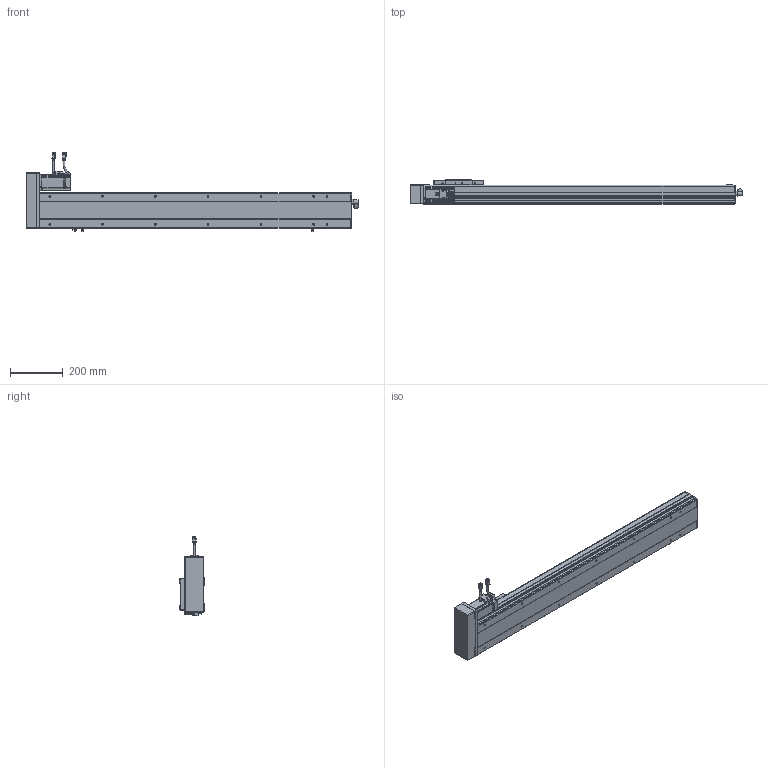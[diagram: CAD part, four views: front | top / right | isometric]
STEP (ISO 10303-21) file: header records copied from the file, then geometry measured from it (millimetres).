
FILE_DESCRIPTION(/* description */ ('STEP AP214'),/* implementation_level */ '2;1');
FILE_NAME(/* name */ 'PSC140-L05-S900-BL-P40-C1-N(0)',/* time_stamp */ '2022-06-13T03:28:26+02:00',/* author */ ('License CC BY-ND 4.0'),/* organization */ ('CADENAS'),/* preprocessor_version */ 'ST-DEVELOPER v18.102',/* originating_system */ 'PARTsolutions',/* authorisation */ ' ');
FILE_SCHEMA (('AUTOMOTIVE_DESIGN {1 0 10303 214 3 1 1}'));
Length unit declared in the file: millimetre
Products named in the file (11): PSC140-L05-S900-BL-P40-C1-N(0); P40-s2; P40-c2; P40-s1; P40-c1; P40-p1; PSC140-BL-body2; PSC140-sensor; PSC140-BL-SLIDER; PSC140-S900-BL-P40-C1_BODY1; PSC140-L05-S900-BL-P40-C1-N(0)_dummy
Assembly tree (12 placements, depth 2):
  PSC140-L05-S900-BL-P40-C1-N(0)
    P40-s2
    P40-c2
    P40-s1
    P40-c1
    P40-p1
    PSC140-BL-body2
    PSC140-sensor  x3
    PSC140-BL-SLIDER
    PSC140-S900-BL-P40-C1_BODY1
    PSC140-L05-S900-BL-P40-C1-N(0)_dummy
Bounding box: 1258 x 91 x 300.88 mm (x, y, z)
Volume: 12759716.3 mm3; surface area: 740224.8 mm2
Topology: 11 solids, 11 shells, 1237 faces, 3189 edges, 2109 vertices
Faces by surface type: plane 860, cylinder 316, cone 42, torus 19
Full cylindrical faces by diameter (mm): 1 x8, 2.6 x10, 2.8 x3, 3.3 x8, 4.5 x12, 4.6 x3, 4.917 x18, 5 x4, 5.5 x8, 6 x10, 7 x10, 9 x2, 10 x1, 11 x1, 12 x1, 13.74 x1, 14 x1, 16.4 x2, 16.5 x1, 36 x1, 50 x2
Entity records: 34206 total; most frequent: CARTESIAN_POINT 5971, DIRECTION 5755, ORIENTED_EDGE 5546, EDGE_CURVE 2773, LINE 2097, VECTOR 2097, VERTEX_POINT 1930, AXIS2_PLACEMENT_3D 1829
